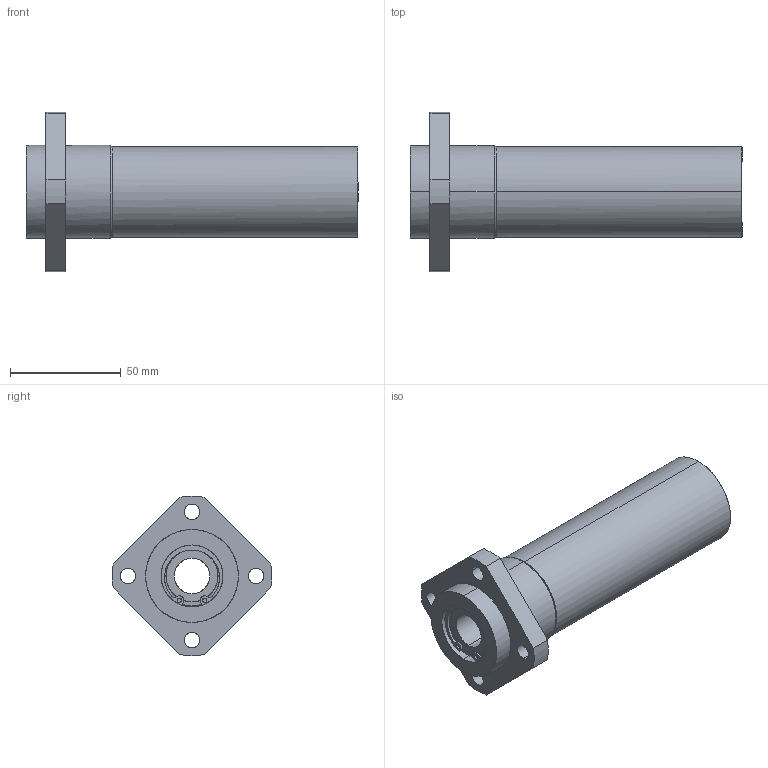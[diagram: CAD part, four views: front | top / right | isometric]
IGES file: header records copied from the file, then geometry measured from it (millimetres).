
Global section: file name: No Iges File Name specified; native system: AutoDesk Inventor R11.0; preprocessor: AutoDesk Inventor Iges Exporter R11.0; author: No Author specified; organization: No Organization specified; date: 20170922.135831; units: millimetre
Bounding box: 150 x 71.91 x 71.95 mm (x, y, z)
Surface area: 37880.5 mm2 (no closed solid volume)
Topology: 0 solids, 0 shells, 133 faces, 956 edges, 956 vertices
Faces by surface type: bspline 133
